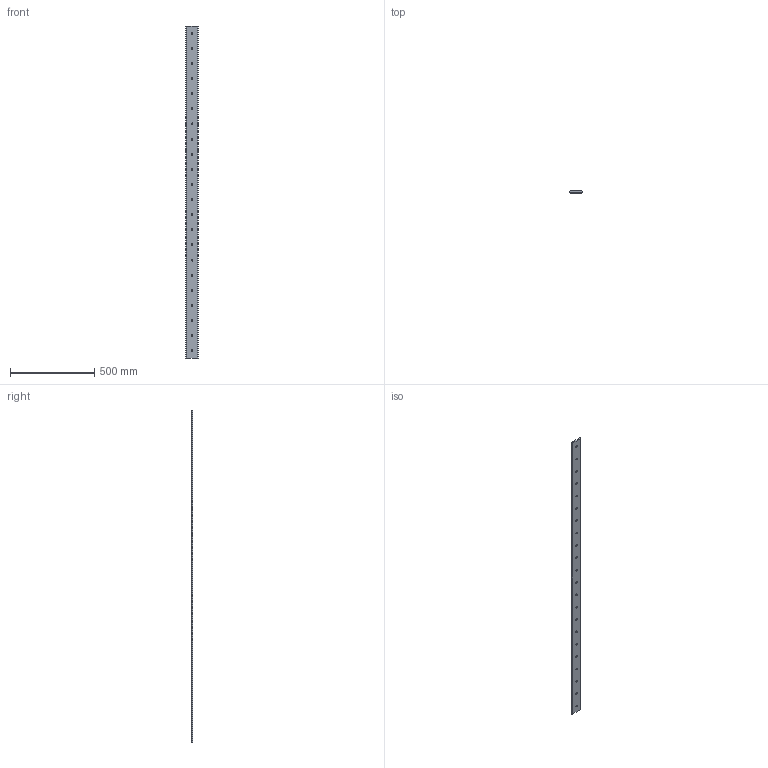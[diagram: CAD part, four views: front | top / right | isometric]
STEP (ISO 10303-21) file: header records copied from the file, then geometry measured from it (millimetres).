
FILE_DESCRIPTION(('STEP AP203'),'1');
FILE_NAME('slide_l76l1976p1.stp','2022-07-01T06:27:31',('TraceParts'),('TraceParts S.A.'),'Spatial InterOp 3D',' ',' ');
FILE_SCHEMA(('CONFIG_CONTROL_DESIGN'));
Length unit declared in the file: millimetre
Products named in the file (1): 1
Bounding box: 75.68 x 9.12 x 1976 mm (x, y, z)
Volume: 1244933.3 mm3; surface area: 316064.4 mm2
Topology: 1 solids, 1 shells, 56 faces, 162 edges, 108 vertices
Faces by surface type: cylinder 48, plane 8
Entity records: 2034 total; most frequent: DIRECTION 372, CARTESIAN_POINT 327, ORIENTED_EDGE 324, EDGE_CURVE 162, AXIS2_PLACEMENT_3D 153, VERTEX_POINT 108, EDGE_LOOP 100, CIRCLE 96
